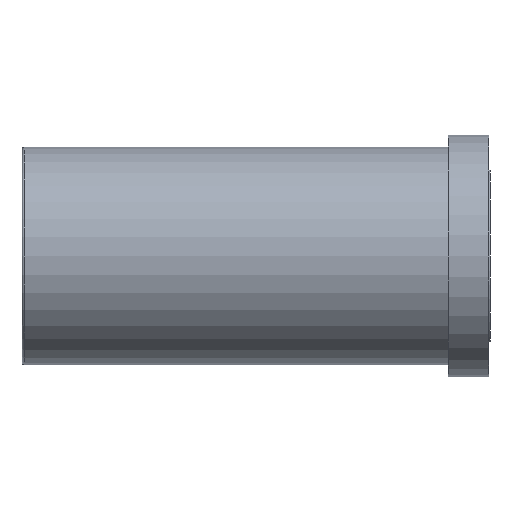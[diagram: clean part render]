
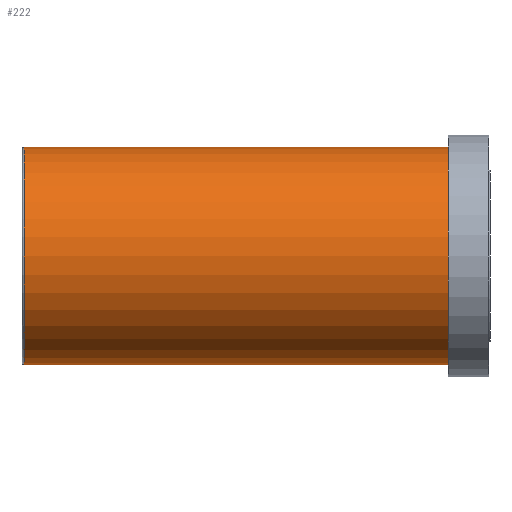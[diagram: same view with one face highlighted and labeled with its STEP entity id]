
A CAD part, left-side view. The second image highlights one B-rep face of the part: STEP entity #222.
In plain terms, the highlighted cylindrical face has radius 27 mm (diameter 54 mm), a partial arc.
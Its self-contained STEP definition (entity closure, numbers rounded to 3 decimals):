
#11 = ORIENTED_EDGE ( 'NONE', *, *, #256, .F. ) ;
#17 = DIRECTION ( 'NONE',  ( 0., -1., 0. ) ) ;
#20 = VECTOR ( 'NONE', #162, 1000. ) ;
#34 = CYLINDRICAL_SURFACE ( 'NONE', #467, 27. ) ;
#42 = DIRECTION ( 'NONE',  ( 0., 0., -1. ) ) ;
#78 = DIRECTION ( 'NONE',  ( 0., -1., 0. ) ) ;
#111 = EDGE_CURVE ( 'NONE', #124, #278, #151, .T. ) ;
#124 = VERTEX_POINT ( 'NONE', #457 ) ;
#133 = DIRECTION ( 'NONE',  ( 0., -1., 0. ) ) ;
#151 = CIRCLE ( 'NONE', #289, 27. ) ;
#154 = EDGE_CURVE ( 'NONE', #124, #349, #433, .T. ) ;
#156 = ORIENTED_EDGE ( 'NONE', *, *, #189, .T. ) ;
#158 = CARTESIAN_POINT ( 'NONE',  ( 0., 105.5, -27. ) ) ;
#162 = DIRECTION ( 'NONE',  ( 0., -1., 0. ) ) ;
#163 = EDGE_LOOP ( 'NONE', ( #460, #339, #156, #11 ) ) ;
#189 = EDGE_CURVE ( 'NONE', #278, #376, #311, .T. ) ;
#198 = CARTESIAN_POINT ( 'NONE',  ( 0., 0., 0. ) ) ;
#222 = ADVANCED_FACE ( 'NONE', ( #281 ), #34, .T. ) ;
#237 = DIRECTION ( 'NONE',  ( 0., -1., 0. ) ) ;
#256 = EDGE_CURVE ( 'NONE', #349, #376, #449, .T. ) ;
#259 = VECTOR ( 'NONE', #133, 1000. ) ;
#260 = DIRECTION ( 'NONE',  ( 0., 0., -1. ) ) ;
#269 = CARTESIAN_POINT ( 'NONE',  ( 0., 0., 27. ) ) ;
#278 = VERTEX_POINT ( 'NONE', #158 ) ;
#281 = FACE_OUTER_BOUND ( 'NONE', #163, .T. ) ;
#282 = AXIS2_PLACEMENT_3D ( 'NONE', #465, #237, #42 ) ;
#289 = AXIS2_PLACEMENT_3D ( 'NONE', #396, #17, #260 ) ;
#295 = CARTESIAN_POINT ( 'NONE',  ( 0., 0., 27. ) ) ;
#311 = LINE ( 'NONE', #481, #20 ) ;
#339 = ORIENTED_EDGE ( 'NONE', *, *, #111, .T. ) ;
#349 = VERTEX_POINT ( 'NONE', #295 ) ;
#376 = VERTEX_POINT ( 'NONE', #407 ) ;
#396 = CARTESIAN_POINT ( 'NONE',  ( 0., 105.5, 0. ) ) ;
#407 = CARTESIAN_POINT ( 'NONE',  ( 0., 0., -27. ) ) ;
#433 = LINE ( 'NONE', #269, #259 ) ;
#449 = CIRCLE ( 'NONE', #282, 27. ) ;
#457 = CARTESIAN_POINT ( 'NONE',  ( 0., 105.5, 27. ) ) ;
#460 = ORIENTED_EDGE ( 'NONE', *, *, #154, .F. ) ;
#465 = CARTESIAN_POINT ( 'NONE',  ( 0., 0., 0. ) ) ;
#466 = DIRECTION ( 'NONE',  ( 0., 0., -1. ) ) ;
#467 = AXIS2_PLACEMENT_3D ( 'NONE', #198, #78, #466 ) ;
#481 = CARTESIAN_POINT ( 'NONE',  ( 0., 0., -27. ) ) ;
